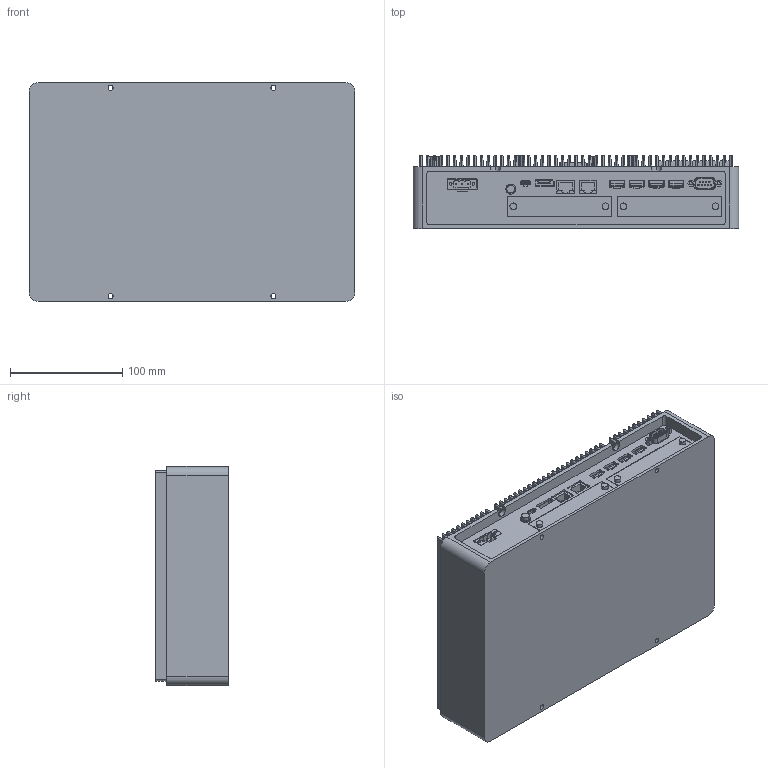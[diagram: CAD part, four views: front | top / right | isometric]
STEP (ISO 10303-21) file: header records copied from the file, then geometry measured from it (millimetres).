
FILE_DESCRIPTION (( 'STEP AP203' ), '1' );
FILE_NAME ('20200221_Advanced_box.STEP', '2020-04-01T14:53:55', ( 'Caca' ), ( '' ), 'SwSTEP 2.0', 'SolidWorks 2017', '' );
FILE_SCHEMA (( 'CONFIG_CONTROL_DESIGN' ));
Length unit declared in the file: millimetre
Products named in the file (1): 20200221_Advanced_box
Bounding box: 290 x 64.9 x 195 mm (x, y, z)
Volume: 3084168.3 mm3; surface area: 339260.2 mm2
Topology: 1 solids, 1 shells, 1132 faces, 3041 edges, 2030 vertices
Faces by surface type: plane 621, cone 279, cylinder 232
Entity records: 36083 total; most frequent: CARTESIAN_POINT 6707, DIRECTION 6237, ORIENTED_EDGE 6082, EDGE_CURVE 3041, AXIS2_PLACEMENT_3D 2155, VERTEX_POINT 2030, VECTOR 1927, LINE 1927
